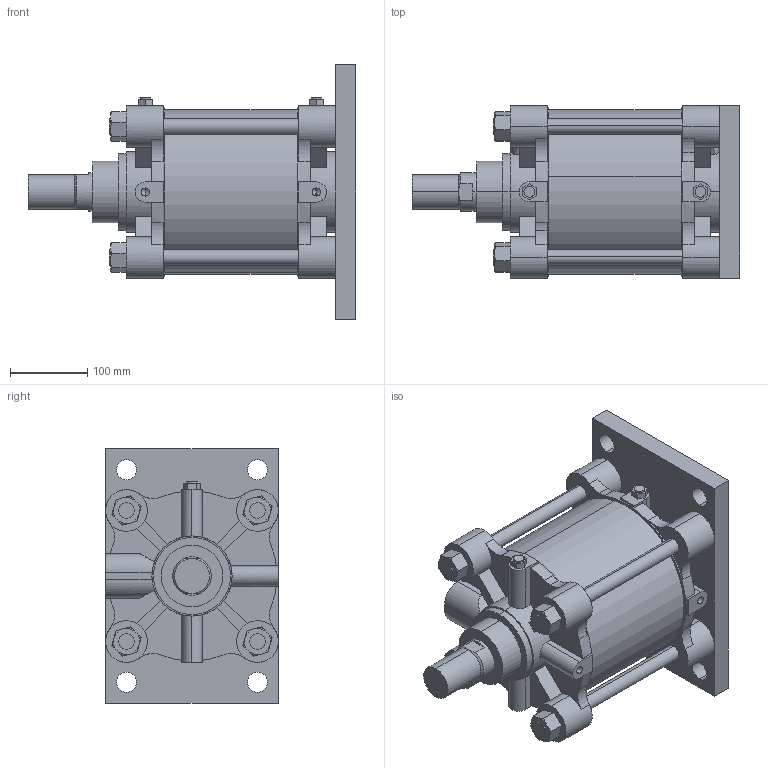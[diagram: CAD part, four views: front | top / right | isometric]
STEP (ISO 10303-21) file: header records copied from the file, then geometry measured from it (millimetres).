
FILE_DESCRIPTION (( 'STEP AP203' ), '1' );
FILE_NAME ('A##2-200#-100-B.STEP', '2016-03-31T07:00:21', ( '' ), ( '' ), 'SwSTEP 2.0', 'SolidWorks 2014', '' );
FILE_SCHEMA (( 'CONFIG_CONTROL_DESIGN' ));
Length unit declared in the file: millimetre
Products named in the file (7): A200-A; A200-B; A200-AB; A200-100; A##2-200#-100-B
Assembly tree (12 placements, depth 2):
  A##2-200#-100-B
    A200-B
    A200-100
    A200-A
    (unnamed)  x4
    (unnamed)  x4
    A200-AB
Bounding box: 425 x 224 x 330 mm (x, y, z)
Volume: 11554553.3 mm3; surface area: 837769.2 mm2
Topology: 12 solids, 14 shells, 344 faces, 888 edges, 572 vertices
Faces by surface type: plane 172, cylinder 134, torus 24, cone 14
Entity records: 10377 total; most frequent: CARTESIAN_POINT 2093, DIRECTION 1642, ORIENTED_EDGE 1500, EDGE_CURVE 750, AXIS2_PLACEMENT_3D 627, VERTEX_POINT 494, LINE 388, VECTOR 388
